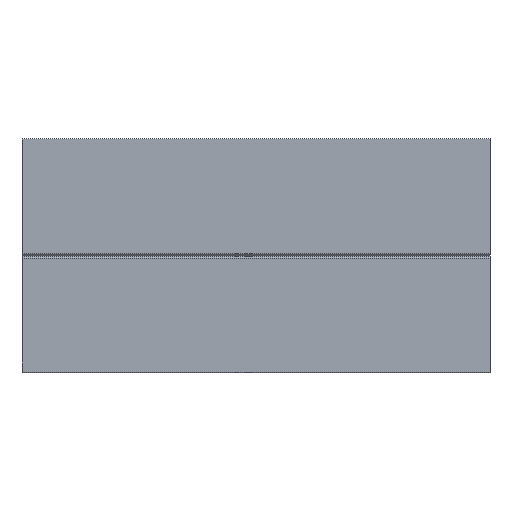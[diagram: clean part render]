
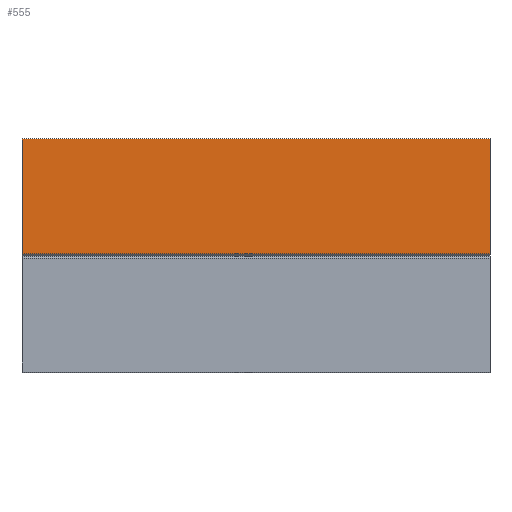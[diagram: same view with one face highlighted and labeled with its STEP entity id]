
A CAD part, left-side view. The second image highlights one B-rep face of the part: STEP entity #555.
In plain terms, the highlighted planar face has unit normal (-1, 0, 0).
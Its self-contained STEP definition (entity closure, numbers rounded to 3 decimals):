
#84=ORIENTED_EDGE('',*,*,#190,.T.);
#85=ORIENTED_EDGE('',*,*,#183,.T.);
#86=ORIENTED_EDGE('',*,*,#191,.F.);
#87=ORIENTED_EDGE('',*,*,#157,.F.);
#157=EDGE_CURVE('',#214,#215,#251,.T.);
#183=EDGE_CURVE('',#237,#236,#272,.T.);
#190=EDGE_CURVE('',#214,#237,#279,.T.);
#191=EDGE_CURVE('',#215,#236,#280,.T.);
#214=VERTEX_POINT('',#739);
#215=VERTEX_POINT('',#741);
#236=VERTEX_POINT('',#788);
#237=VERTEX_POINT('',#790);
#251=LINE('',#740,#302);
#272=LINE('',#789,#323);
#279=LINE('',#801,#330);
#280=LINE('',#802,#331);
#302=VECTOR('',#624,1000.);
#323=VECTOR('',#657,1000.);
#330=VECTOR('',#670,1000.);
#331=VECTOR('',#671,1000.);
#347=EDGE_LOOP('',(#84,#85,#86,#87));
#368=FACE_BOUND('',#347,.T.);
#389=PLANE('',#587);
#555=ADVANCED_FACE('',(#368),#389,.F.);
#587=AXIS2_PLACEMENT_3D('',#800,#668,#669);
#624=DIRECTION('',(0.,0.,1.));
#657=DIRECTION('',(0.,0.,1.));
#668=DIRECTION('',(1.,0.,0.));
#669=DIRECTION('',(0.,0.,-1.));
#670=DIRECTION('',(0.,-1.,0.));
#671=DIRECTION('',(0.,-1.,0.));
#739=CARTESIAN_POINT('',(0.,100.,25.5));
#740=CARTESIAN_POINT('',(0.,100.,0.));
#741=CARTESIAN_POINT('',(0.,100.,50.));
#788=CARTESIAN_POINT('',(0.,0.,50.));
#789=CARTESIAN_POINT('',(0.,0.,0.));
#790=CARTESIAN_POINT('',(0.,0.,25.5));
#800=CARTESIAN_POINT('',(0.,100.,0.));
#801=CARTESIAN_POINT('',(0.,122.474,25.5));
#802=CARTESIAN_POINT('',(0.,100.,50.));
